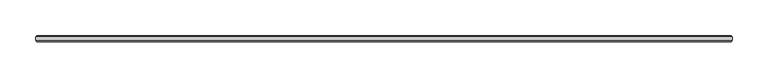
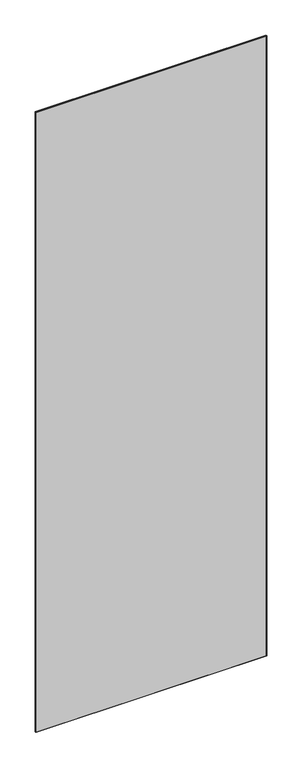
"""IFC4 building model written with IfcOpenShell, lengths in millimetres: plate geometry, 1-AMG-1-Панель одинарный витраж 8, 10 : Смещение 32 Толщина 8mm."""

from ifc_helpers import new_model, si_unit, origin, place, context, project, spatial, faceted_brep, source, transform, mapped, element, save


def plate_b8236d5b(model_context):
    return source(origin(), model_context, "Body", "Brep", [
        faceted_brep([(486.2456302, -29.5038347, 2751.0), (-486.2456302, -29.5038347, 2751.0), (-486.2456302, -34.4961653, 2751.0), (486.2456302, -34.4961653, 2751.0), (486.2456302, -34.5039422, -7.0), (-486.2456302, -34.5039422, -7.0), (-486.2456302, -29.5038347, -7.0), (486.2456302, -29.5038347, -7.0), (-484.7417955, -36.0, 2749.4961653), (-484.7417955, -36.0, -5.5039422), (484.7417955, -36.0, -5.5039422), (484.7417955, -36.0, 2749.4961653), (484.7417955, -28.0, 2749.4961653), (484.7417955, -28.0, -5.4961653), (-484.7417955, -28.0, -5.4961653), (-484.7417955, -28.0, 2749.4961653)], [[[0, 1, 2, 3]], [[4, 5, 6, 7]], [[8, 9, 10, 11]], [[1, 6, 5, 2]], [[12, 13, 14, 15]], [[3, 4, 7, 0]], [[3, 11, 10, 4]], [[7, 13, 12, 0]], [[5, 9, 8, 2]], [[1, 15, 14, 6]], [[0, 12, 15, 1]], [[2, 8, 11, 3]], [[6, 14, 13, 7]], [[4, 10, 9, 5]]]),
    ])


if __name__ == "__main__":
    model = new_model("IFC4")
    model_context = context("Model", 3, world=origin())
    ifc_project = project(units=[si_unit("LENGTHUNIT", "METRE", prefix="MILLI")], contexts=[model_context])
    site = spatial("IfcSite", under=ifc_project)
    building = spatial("IfcBuilding", under=site)
    placement = place(None, origin())
    plate_shape = plate_b8236d5b(model_context)
    element("IfcPlate", 1, ObjectType="1-AMG-1-Панель одинарный витраж 8, 10 : Смещение 32 Толщина 8mm", at=placement, inside=building, context=model_context, shape_type="MappedRepresentation", body=[
        mapped(plate_shape, transform((0.0, 0.0, 0.0), x_axis=(1.0, 0.0, 0.0), y_axis=(0.0, 1.0, 0.0), z_axis=(0.0, 0.0, 1.0))),
    ])
    save(model, "model.ifc")
